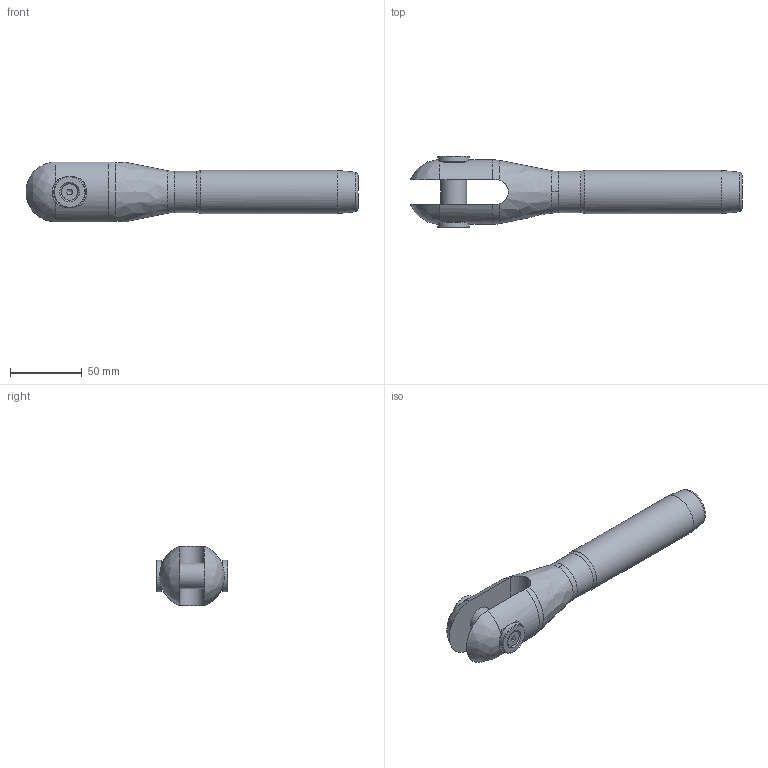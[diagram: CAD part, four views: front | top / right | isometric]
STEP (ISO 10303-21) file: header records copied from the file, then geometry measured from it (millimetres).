
FILE_DESCRIPTION(/* description */ (''),/* implementation_level */ '2;1');
FILE_NAME(/* name */ 'MAC 12_1,4418',/* time_stamp */ '2023-05-23T16:54:51+02:00',/* author */ (''),/* organization */ (''),/* preprocessor_version */ 'ST-DEVELOPER v16.5',/* originating_system */ 'Rhino 7.22',/* authorisation */ '');
FILE_SCHEMA (('CONFIG_CONTROL_DESIGN'));
Length unit declared in the file: millimetre
Products named in the file (1): Document
Bounding box: 230.79 x 49.79 x 41.67 mm (x, y, z)
Volume: 178319.2 mm3; surface area: 35431.3 mm2
Topology: 6 solids, 6 shells, 75 faces, 210 edges, 145 vertices
Faces by surface type: plane 29, bspline 24, cylinder 22
Full cylindrical faces by diameter (mm): 4.917 x2, 6 x2, 6.5 x2, 11.34 x2, 18 x1, 19 x2, 22 x2, 28.6 x1, 30 x1
Entity records: 3106 total; most frequent: CARTESIAN_POINT 1759, ORIENTED_EDGE 412, EDGE_CURVE 206, VERTEX_POINT 145, EDGE_LOOP 85, B_SPLINE_CURVE_WITH_KNOTS 84, ADVANCED_FACE 75, FACE_OUTER_BOUND 75
